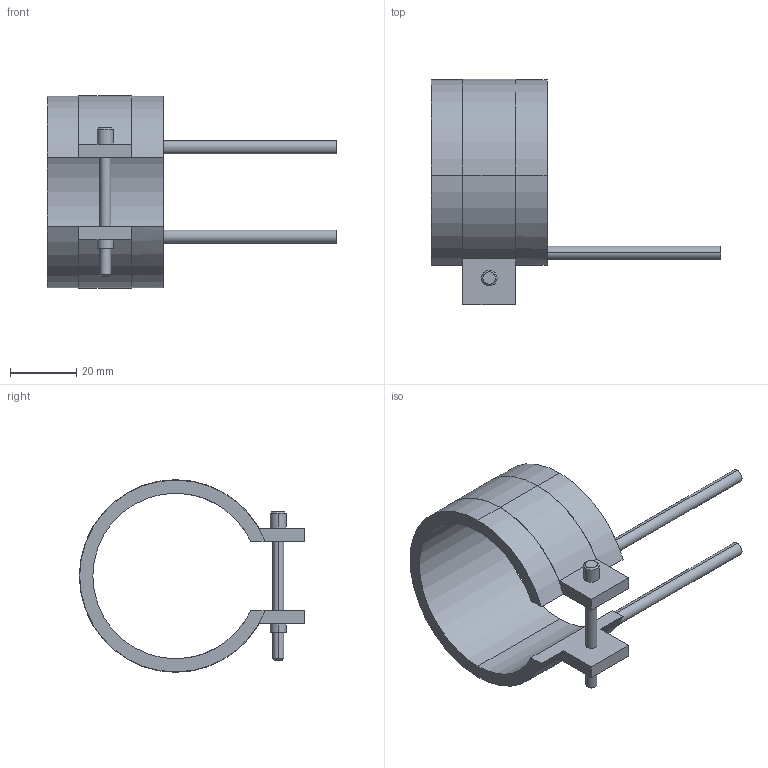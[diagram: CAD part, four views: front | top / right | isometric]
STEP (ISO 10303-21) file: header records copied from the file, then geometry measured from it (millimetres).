
FILE_DESCRIPTION(('CATIA V5 STEP Exchange'),'2;1');
FILE_NAME('C:\Users\Utente\Desktop\IO LAVORO\3D X SITO CF\X SITO\PLASTICA\RF2\14050035.stp','2021-03-31T11:53:37+00:00',('none'),('none'),'CATIA Version 5 Release 20 GA (IN-10)','CATIA V5 STEP AP203','none');
FILE_SCHEMA(('CONFIG_CONTROL_DESIGN'));
Length unit declared in the file: millimetre
Products named in the file (1): 14050035
Bounding box: 87.5 x 68.1 x 58.2 mm (x, y, z)
Volume: 24327.8 mm3; surface area: 14624.3 mm2
Topology: 1 solids, 1 shells, 45 faces, 116 edges, 76 vertices
Faces by surface type: cylinder 24, plane 17, cone 4
Entity records: 1400 total; most frequent: CARTESIAN_POINT 274, ORIENTED_EDGE 232, DIRECTION 196, EDGE_CURVE 116, AXIS2_PLACEMENT_3D 104, VERTEX_POINT 76, CIRCLE 62, VECTOR 52
